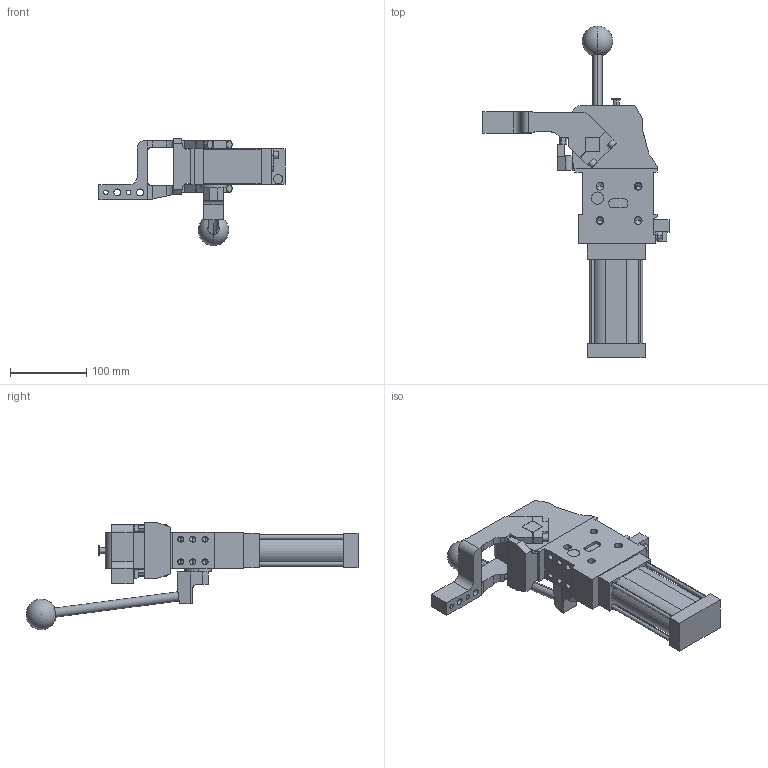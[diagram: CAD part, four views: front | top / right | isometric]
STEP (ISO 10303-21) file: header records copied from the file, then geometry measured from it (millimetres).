
FILE_DESCRIPTION (( 'STEP AP214' ), '1' );
FILE_NAME ('cplm50lbtv1di1g_135.STEP', '2023-01-26T13:24:04', ( '' ), ( '' ), 'SwSTEP 2.0', 'SolidWorks 2022', '' );
FILE_SCHEMA (( 'AUTOMOTIVE_DESIGN' ));
Length unit declared in the file: millimetre
Products named in the file (5): meccanica_cplm_50_tassello_esterno; comando_manuale_cplm_50; cplm50lbtv1di1g_135; blocchetto_VEP_0; leva_v1d_cpl50t
Assembly tree (4 placements, depth 2):
  cplm50lbtv1di1g_135
    meccanica_cplm_50_tassello_esterno
    blocchetto_VEP_0
    leva_v1d_cpl50t
    comando_manuale_cplm_50
Bounding box: 244.5 x 436.23 x 141 mm (x, y, z)
Volume: 1501974.6 mm3; surface area: 188306.2 mm2
Topology: 4 solids, 4 shells, 468 faces, 1215 edges, 761 vertices
Faces by surface type: plane 247, cylinder 169, cone 50, sphere 2
Entity records: 15559 total; most frequent: CARTESIAN_POINT 2494, DIRECTION 2458, ORIENTED_EDGE 2328, EDGE_CURVE 1164, AXIS2_PLACEMENT_3D 832, LINE 794, VECTOR 794, VERTEX_POINT 758
